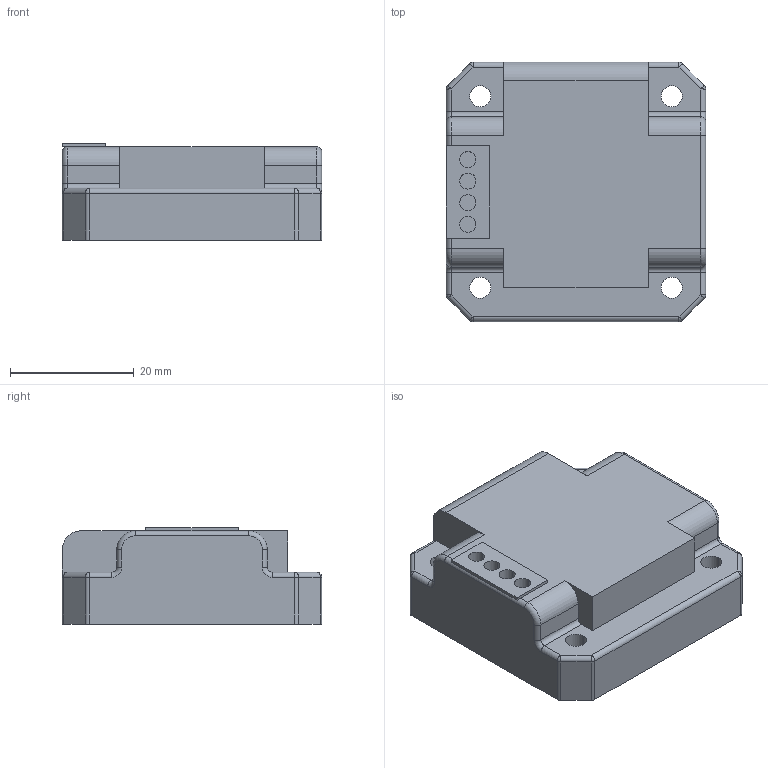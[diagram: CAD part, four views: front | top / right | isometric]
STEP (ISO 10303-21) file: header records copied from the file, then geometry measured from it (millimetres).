
FILE_DESCRIPTION (( 'STEP AP203' ), '1' );
FILE_NAME ('UI Controller.STEP', '2017-01-29T12:33:38', ( '' ), ( '' ), 'SwSTEP 2.0', 'SolidWorks 2015', '' );
FILE_SCHEMA (( 'CONFIG_CONTROL_DESIGN' ));
Length unit declared in the file: millimetre
Products named in the file (1): UI Controller
Bounding box: 42 x 42 x 15.6 mm (x, y, z)
Volume: 22434.5 mm3; surface area: 6392.4 mm2
Topology: 1 solids, 1 shells, 105 faces, 256 edges, 154 vertices
Faces by surface type: cylinder 52, plane 37, sphere 8, torus 8
Entity records: 3135 total; most frequent: DIRECTION 576, CARTESIAN_POINT 512, ORIENTED_EDGE 504, EDGE_CURVE 252, AXIS2_PLACEMENT_3D 218, VERTEX_POINT 154, VECTOR 140, LINE 140
